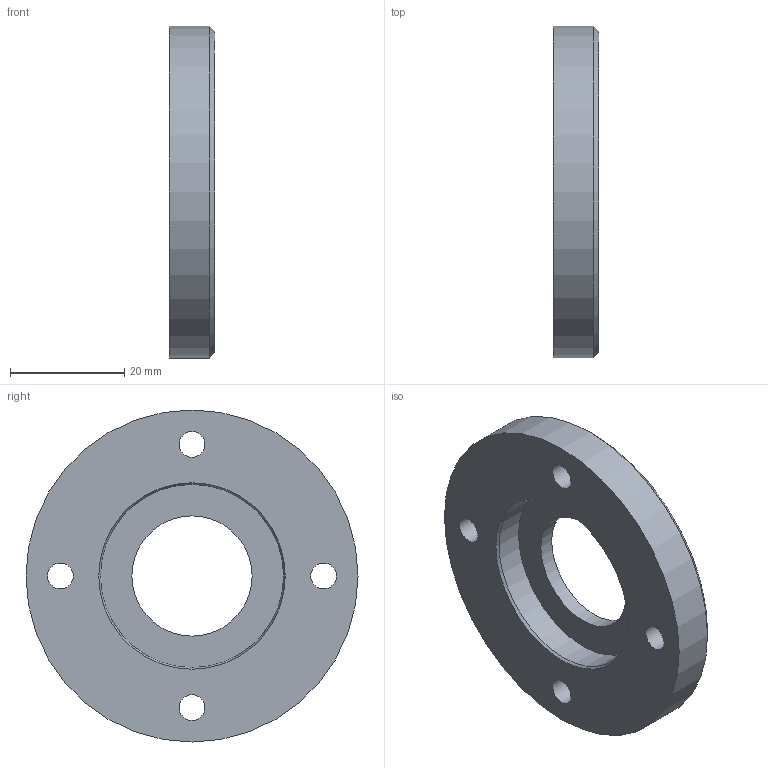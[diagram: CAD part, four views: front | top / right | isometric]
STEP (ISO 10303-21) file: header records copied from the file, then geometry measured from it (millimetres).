
FILE_DESCRIPTION(/* description */ (''),/* implementation_level */ '2;1');
FILE_NAME(/* name */ '',/* time_stamp */ '2024-08-09T13:02:29+09:00',/* author */ ('jhkim'),/* organization */ (''),/* preprocessor_version */ 'ST-DEVELOPER v20',/* originating_system */ 'Autodesk Inventor 2025',/* authorisation */ '');
FILE_SCHEMA (('AUTOMOTIVE_DESIGN { 1 0 10303 214 3 1 1 }'));
Length unit declared in the file: millimetre
Products named in the file (1): 부시 커버
Bounding box: 8 x 58 x 58 mm (x, y, z)
Volume: 14727.9 mm3; surface area: 7149.7 mm2
Topology: 1 solids, 1 shells, 20 faces, 37 edges, 24 vertices
Faces by surface type: cylinder 11, plane 7, cone 2
Full cylindrical faces by diameter (mm): 4.5 x4, 8 x4, 21 x1, 32 x1, 58 x1
Entity records: 572 total; most frequent: DIRECTION 103, CARTESIAN_POINT 82, ORIENTED_EDGE 74, AXIS2_PLACEMENT_3D 45, EDGE_CURVE 37, EDGE_LOOP 35, CIRCLE 24, VERTEX_POINT 24
